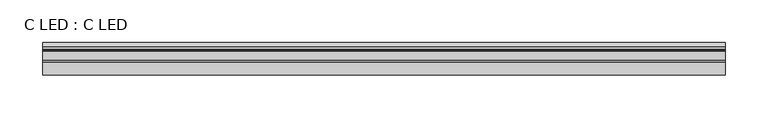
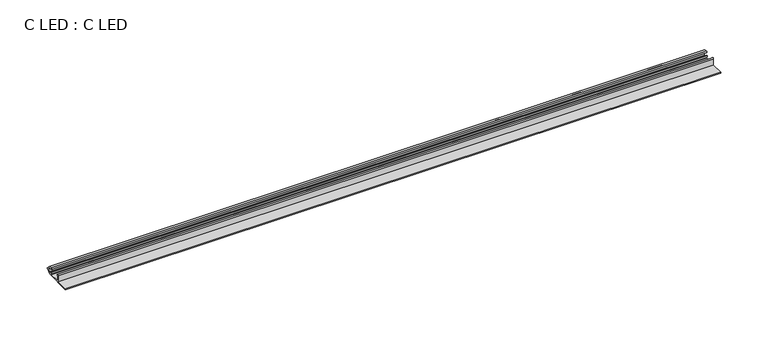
"""IFC4 building model written with IfcOpenShell, lengths in millimetres: proxy geometry, C LED : C LED."""

from ifc_helpers import new_model, si_unit, point, frame, frame_2d, origin, place, context, project, spatial, polyline, circle_curve, trimmed, segment, composite_curve, outline, extrude, source, transform, mapped, element, save


def c_led_c_led_99613e41(model_context):
    return source(origin(), model_context, "Body", "SweptSolid", [
        extrude(outline(composite_curve([segment(polyline([(-16.8000006, 7.8045541), (-16.8000006, 1.1999992), (-3.2940858, 1.1999992), (-3.2940858, 1.9999992)]), True, "CONTINUOUS"), segment(trimmed(circle_curve(frame_2d((-0.6483345, 4.9999992)), 4.0), [point((-3.2940858, 1.9999992))], [point((-4.6483345, 4.9999992))], False, "CARTESIAN"), True, "CONTINUOUS"), segment(polyline([(-4.6483345, 4.9999992), (-3.3983345, 4.9999992)]), True, "CONTINUOUS"), segment(trimmed(circle_curve(frame_2d((-0.6483345, 4.9999992)), 2.75), [point((-3.3983345, 4.9999992))], [point((-2.5928782, 3.0554556))], True, "CARTESIAN"), True, "CONTINUOUS"), segment(trimmed(circle_curve(frame_2d((-0.6483345, 4.9999992)), 2.75), [point((-2.5928782, 3.0554556))], [point((0.655408, 2.5786865))], True, "CARTESIAN"), True, "CONTINUOUS"), segment(trimmed(circle_curve(frame_2d((-0.6483345, 4.9999992)), 2.75), [point((0.655408, 2.5786865))], [point((2.0734708, 5.3927787))], True, "CARTESIAN"), True, "CONTINUOUS"), segment(trimmed(circle_curve(frame_2d((-0.6483345, 4.9999992)), 2.75), [point((2.0734708, 5.3927787))], [point((0.1618837, 7.627935))], True, "CARTESIAN"), True, "CONTINUOUS"), segment(polyline([(0.1618837, 7.627935), (-2.5031066, 7.8740971)]), True, "CONTINUOUS"), segment(trimmed(circle_curve(frame_2d((-2.9000006, 8.8999992)), 1.1), [point((-2.5031066, 7.8740971))], [point((-2.9000006, 9.9999992))], False, "CARTESIAN"), True, "CONTINUOUS"), segment(polyline([(-2.9000006, 9.9999992), (-6e-07, 9.9999992), (4.9999994, 4.9999992), (-6e-07, -8e-07), (-33.0000006, -8e-07), (-33.0000006, 1.1999992), (-18.0000006, 1.1999992), (-18.0000006, 8.8999992)]), True, "CONTINUOUS"), segment(trimmed(circle_curve(frame_2d((-16.9000006, 8.8999992)), 1.1), [point((-18.0000006, 8.8999992))], [point((-16.8000006, 7.8045541))], False, "CARTESIAN"), True, "CONTINUOUS")], self_intersect=False)), frame((1.0, 0.0, 0.0), z_axis=(1.0, 0.0, 0.0), x_axis=(0.0, 1.0, 0.0)), (0.0, 0.0, 1.0), 798.0),
    ])


if __name__ == "__main__":
    model = new_model("IFC4")
    model_context = context("Model", 3, world=origin())
    ifc_project = project(units=[si_unit("LENGTHUNIT", "METRE", prefix="MILLI")], contexts=[model_context])
    site = spatial("IfcSite", under=ifc_project)
    building = spatial("IfcBuilding", under=site)
    placement = place(None, origin())
    c_led_c_led_shape = c_led_c_led_99613e41(model_context)
    element("IfcBuildingElementProxy", 1, Name="C LED : C LED", ObjectType="C LED : C LED", at=placement, inside=building, context=model_context, shape_type="MappedRepresentation", body=[
        mapped(c_led_c_led_shape, transform((0.0, 0.0, 0.0), x_axis=(1.0, 0.0, 0.0), y_axis=(0.0, 1.0, 0.0), z_axis=(0.0, 0.0, 1.0))),
    ])
    save(model, "model.ifc")
